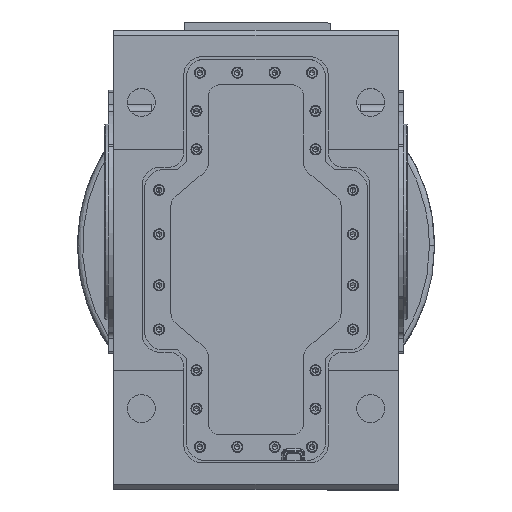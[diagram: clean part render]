
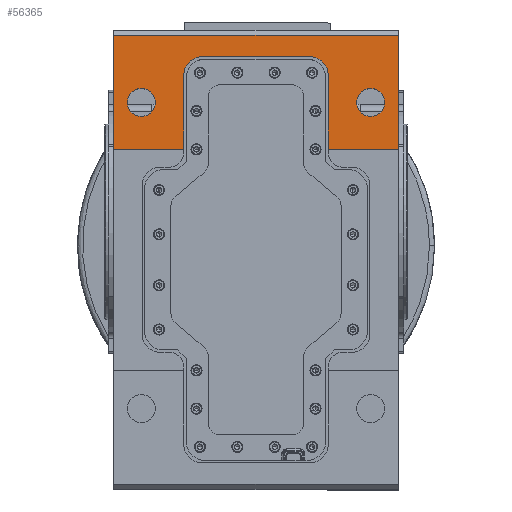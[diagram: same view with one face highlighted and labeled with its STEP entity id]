
A CAD part, top view. The second image highlights one B-rep face of the part: STEP entity #56365.
In plain terms, the highlighted planar face has unit normal (0, 0, 1).
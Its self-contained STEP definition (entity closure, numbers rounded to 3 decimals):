
#11636 = EDGE_CURVE ( 'NONE', #74041, #74587, #45526, .T. ) ;
#24527 = VERTEX_POINT ( 'NONE', #96334 ) ;
#24551 = VERTEX_POINT ( 'NONE', #96292 ) ;
#24579 = VERTEX_POINT ( 'NONE', #96400 ) ;
#24608 = VERTEX_POINT ( 'NONE', #95142 ) ;
#28339 = DIRECTION ( 'NONE',  ( 1., 0., 0. ) ) ;
#28362 = CARTESIAN_POINT ( 'NONE',  ( -167.5, 85., 200. ) ) ;
#30780 = EDGE_LOOP ( 'NONE', ( #86673, #86624 ) ) ;
#30814 = EDGE_LOOP ( 'NONE', ( #86694, #86681 ) ) ;
#30821 = EDGE_LOOP ( 'NONE', ( #86684, #86645, #86646, #86677, #86610, #86617, #86648, #86667, #86621, #31259 ) ) ;
#31259 = ORIENTED_EDGE ( 'NONE', *, *, #60629, .T. ) ;
#35616 = AXIS2_PLACEMENT_3D ( 'NONE', #59345, #59320, #59295 ) ;
#35722 = AXIS2_PLACEMENT_3D ( 'NONE', #59461, #59455, #59422 ) ;
#43471 = LINE ( 'NONE', #92119, #43472 ) ;
#43472 = VECTOR ( 'NONE', #92153, 1000. ) ;
#43568 = LINE ( 'NONE', #91059, #43571 ) ;
#43571 = VECTOR ( 'NONE', #91041, 1000. ) ;
#43593 = CIRCLE ( 'NONE', #45203, 16.5 ) ;
#43607 = CIRCLE ( 'NONE', #45127, 22. ) ;
#43614 = CIRCLE ( 'NONE', #45178, 22. ) ;
#43688 = LINE ( 'NONE', #91144, #43689 ) ;
#43689 = VECTOR ( 'NONE', #91143, 1000. ) ;
#43690 = CIRCLE ( 'NONE', #45182, 16.5 ) ;
#43921 = LINE ( 'NONE', #92200, #43922 ) ;
#43922 = VECTOR ( 'NONE', #91926, 1000. ) ;
#43953 = LINE ( 'NONE', #100659, #43967 ) ;
#43963 = LINE ( 'NONE', #100524, #43983 ) ;
#43967 = VECTOR ( 'NONE', #100617, 1000. ) ;
#43983 = VECTOR ( 'NONE', #100558, 1000. ) ;
#44028 = LINE ( 'NONE', #100757, #44059 ) ;
#44059 = VECTOR ( 'NONE', #100710, 1000. ) ;
#45127 = AXIS2_PLACEMENT_3D ( 'NONE', #91023, #91062, #91042 ) ;
#45178 = AXIS2_PLACEMENT_3D ( 'NONE', #91072, #91080, #91085 ) ;
#45182 = AXIS2_PLACEMENT_3D ( 'NONE', #91130, #91141, #91118 ) ;
#45203 = AXIS2_PLACEMENT_3D ( 'NONE', #91066, #91026, #91028 ) ;
#45482 = VECTOR ( 'NONE', #28339, 1000. ) ;
#45526 = LINE ( 'NONE', #28362, #45482 ) ;
#50741 = EDGE_CURVE ( 'NONE', #24579, #24608, #63802, .T. ) ;
#50774 = EDGE_CURVE ( 'NONE', #24527, #24551, #82002, .T. ) ;
#56365 = ADVANCED_FACE ( 'NONE', ( #68182, #68208, #68177 ), #90512, .T. ) ;
#59295 = DIRECTION ( 'NONE',  ( 0., -1., 0. ) ) ;
#59320 = DIRECTION ( 'NONE',  ( 0., 0., -1. ) ) ;
#59345 = CARTESIAN_POINT ( 'NONE',  ( -135., 140., 200. ) ) ;
#59422 = DIRECTION ( 'NONE',  ( 0., -1., 0. ) ) ;
#59455 = DIRECTION ( 'NONE',  ( 0., 0., -1. ) ) ;
#59461 = CARTESIAN_POINT ( 'NONE',  ( 135., 140., 200. ) ) ;
#60311 = EDGE_CURVE ( 'NONE', #74587, #74520, #43471, .T. ) ;
#60369 = EDGE_CURVE ( 'NONE', #24551, #24527, #43593, .T. ) ;
#60371 = EDGE_CURVE ( 'NONE', #74756, #74487, #43607, .T. ) ;
#60379 = EDGE_CURVE ( 'NONE', #74504, #74756, #43568, .T. ) ;
#60392 = EDGE_CURVE ( 'NONE', #74520, #74504, #43614, .T. ) ;
#60409 = EDGE_CURVE ( 'NONE', #24608, #24579, #43690, .T. ) ;
#60416 = EDGE_CURVE ( 'NONE', #74487, #74613, #43688, .T. ) ;
#60610 = EDGE_CURVE ( 'NONE', #74753, #74699, #43921, .T. ) ;
#60613 = EDGE_CURVE ( 'NONE', #74699, #74041, #43963, .T. ) ;
#60629 = EDGE_CURVE ( 'NONE', #74613, #74089, #43953, .T. ) ;
#60655 = EDGE_CURVE ( 'NONE', #74753, #74089, #44028, .T. ) ;
#63802 = CIRCLE ( 'NONE', #35616, 16.5 ) ;
#68177 = FACE_OUTER_BOUND ( 'NONE', #30821, .T. ) ;
#68182 = FACE_BOUND ( 'NONE', #30814, .T. ) ;
#68208 = FACE_BOUND ( 'NONE', #30780, .T. ) ;
#74041 = VERTEX_POINT ( 'NONE', #98361 ) ;
#74089 = VERTEX_POINT ( 'NONE', #98551 ) ;
#74487 = VERTEX_POINT ( 'NONE', #98749 ) ;
#74504 = VERTEX_POINT ( 'NONE', #98700 ) ;
#74520 = VERTEX_POINT ( 'NONE', #98771 ) ;
#74587 = VERTEX_POINT ( 'NONE', #98827 ) ;
#74613 = VERTEX_POINT ( 'NONE', #98888 ) ;
#74699 = VERTEX_POINT ( 'NONE', #98988 ) ;
#74753 = VERTEX_POINT ( 'NONE', #98971 ) ;
#74756 = VERTEX_POINT ( 'NONE', #98973 ) ;
#75889 = AXIS2_PLACEMENT_3D ( 'NONE', #90445, #90434, #90470 ) ;
#82002 = CIRCLE ( 'NONE', #35722, 16.5 ) ;
#86610 = ORIENTED_EDGE ( 'NONE', *, *, #60311, .T. ) ;
#86617 = ORIENTED_EDGE ( 'NONE', *, *, #60392, .T. ) ;
#86621 = ORIENTED_EDGE ( 'NONE', *, *, #60416, .T. ) ;
#86624 = ORIENTED_EDGE ( 'NONE', *, *, #60409, .T. ) ;
#86645 = ORIENTED_EDGE ( 'NONE', *, *, #60610, .T. ) ;
#86646 = ORIENTED_EDGE ( 'NONE', *, *, #60613, .T. ) ;
#86648 = ORIENTED_EDGE ( 'NONE', *, *, #60379, .T. ) ;
#86667 = ORIENTED_EDGE ( 'NONE', *, *, #60371, .T. ) ;
#86673 = ORIENTED_EDGE ( 'NONE', *, *, #50741, .T. ) ;
#86677 = ORIENTED_EDGE ( 'NONE', *, *, #11636, .T. ) ;
#86681 = ORIENTED_EDGE ( 'NONE', *, *, #60369, .T. ) ;
#86684 = ORIENTED_EDGE ( 'NONE', *, *, #60655, .F. ) ;
#86694 = ORIENTED_EDGE ( 'NONE', *, *, #50774, .T. ) ;
#90434 = DIRECTION ( 'NONE',  ( 0., 0., 1. ) ) ;
#90445 = CARTESIAN_POINT ( 'NONE',  ( -167.5, 225., 200. ) ) ;
#90470 = DIRECTION ( 'NONE',  ( 0., -1., 0. ) ) ;
#90512 = PLANE ( 'NONE',  #75889 ) ;
#91023 = CARTESIAN_POINT ( 'NONE',  ( 63., 172., 200. ) ) ;
#91026 = DIRECTION ( 'NONE',  ( 0., 0., -1. ) ) ;
#91028 = DIRECTION ( 'NONE',  ( 0., -1., 0. ) ) ;
#91041 = DIRECTION ( 'NONE',  ( 1., 0., 0. ) ) ;
#91042 = DIRECTION ( 'NONE',  ( 0., -1., 0. ) ) ;
#91059 = CARTESIAN_POINT ( 'NONE',  ( -167.5, 194., 200. ) ) ;
#91062 = DIRECTION ( 'NONE',  ( 0., 0., -1. ) ) ;
#91066 = CARTESIAN_POINT ( 'NONE',  ( 135., 140., 200. ) ) ;
#91072 = CARTESIAN_POINT ( 'NONE',  ( -63., 172., 200. ) ) ;
#91080 = DIRECTION ( 'NONE',  ( 0., 0., -1. ) ) ;
#91085 = DIRECTION ( 'NONE',  ( 0., -1., 0. ) ) ;
#91118 = DIRECTION ( 'NONE',  ( 0., -1., 0. ) ) ;
#91130 = CARTESIAN_POINT ( 'NONE',  ( -135., 140., 200. ) ) ;
#91141 = DIRECTION ( 'NONE',  ( 0., 0., -1. ) ) ;
#91143 = DIRECTION ( 'NONE',  ( 0., -1., 0. ) ) ;
#91144 = CARTESIAN_POINT ( 'NONE',  ( 85., 225., 200. ) ) ;
#91926 = DIRECTION ( 'NONE',  ( -1., 0., 0. ) ) ;
#92119 = CARTESIAN_POINT ( 'NONE',  ( -85., 225., 200. ) ) ;
#92153 = DIRECTION ( 'NONE',  ( 0., 1., 0. ) ) ;
#92200 = CARTESIAN_POINT ( 'NONE',  ( -167.5, 219., 200. ) ) ;
#95142 = CARTESIAN_POINT ( 'NONE',  ( -135., 156.5, 200. ) ) ;
#96292 = CARTESIAN_POINT ( 'NONE',  ( 135., 156.5, 200. ) ) ;
#96334 = CARTESIAN_POINT ( 'NONE',  ( 135., 123.5, 200. ) ) ;
#96400 = CARTESIAN_POINT ( 'NONE',  ( -135., 123.5, 200. ) ) ;
#98361 = CARTESIAN_POINT ( 'NONE',  ( -167.5, 85., 200. ) ) ;
#98551 = CARTESIAN_POINT ( 'NONE',  ( 167.5, 85., 200. ) ) ;
#98700 = CARTESIAN_POINT ( 'NONE',  ( -63., 194., 200. ) ) ;
#98749 = CARTESIAN_POINT ( 'NONE',  ( 85., 172., 200. ) ) ;
#98771 = CARTESIAN_POINT ( 'NONE',  ( -85., 172., 200. ) ) ;
#98827 = CARTESIAN_POINT ( 'NONE',  ( -85., 85., 200. ) ) ;
#98888 = CARTESIAN_POINT ( 'NONE',  ( 85., 85., 200. ) ) ;
#98971 = CARTESIAN_POINT ( 'NONE',  ( 167.5, 219., 200. ) ) ;
#98973 = CARTESIAN_POINT ( 'NONE',  ( 63., 194., 200. ) ) ;
#98988 = CARTESIAN_POINT ( 'NONE',  ( -167.5, 219., 200. ) ) ;
#100524 = CARTESIAN_POINT ( 'NONE',  ( -167.5, 225., 200. ) ) ;
#100558 = DIRECTION ( 'NONE',  ( 0., -1., 0. ) ) ;
#100617 = DIRECTION ( 'NONE',  ( 1., 0., 0. ) ) ;
#100659 = CARTESIAN_POINT ( 'NONE',  ( 97.5, 85., 200. ) ) ;
#100710 = DIRECTION ( 'NONE',  ( 0., -1., 0. ) ) ;
#100757 = CARTESIAN_POINT ( 'NONE',  ( 167.5, 221., 200. ) ) ;
